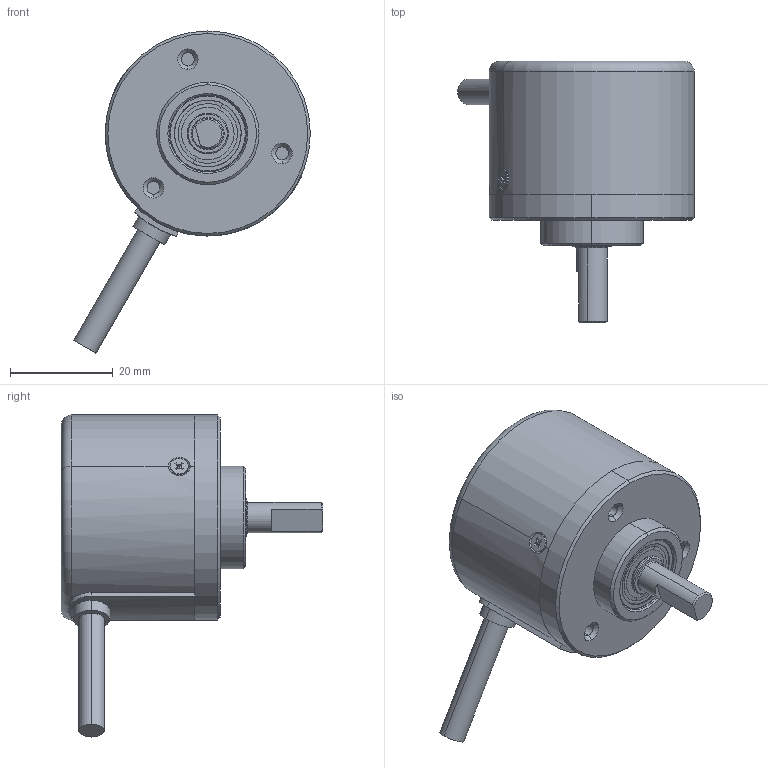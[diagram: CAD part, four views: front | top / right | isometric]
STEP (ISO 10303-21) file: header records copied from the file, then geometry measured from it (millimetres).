
FILE_DESCRIPTION (( 'STEP AP214' ), '1' );
FILE_NAME ('40款编码器DO.STEP', '2022-11-16T02:42:30', ( '' ), ( '' ), 'SwSTEP 2.0', 'SolidWorks 2016', '' );
FILE_SCHEMA (( 'AUTOMOTIVE_DESIGN' ));
Length unit declared in the file: millimetre
Products named in the file (1): 40遴晤鎢んDO
Bounding box: 46.17 x 51 x 62.82 mm (x, y, z)
Surface area: 8115 mm2 (no closed solid volume)
Topology: 0 solids, 14 shells, 125 faces, 321 edges, 212 vertices
Faces by surface type: plane 47, cylinder 42, cone 27, torus 8, bspline 1
Entity records: 5704 total; most frequent: CARTESIAN_POINT 1287, DIRECTION 678, ORIENTED_EDGE 580, EDGE_CURVE 321, AXIS2_PLACEMENT_3D 259, VERTEX_POINT 212, LINE 160, VECTOR 160
